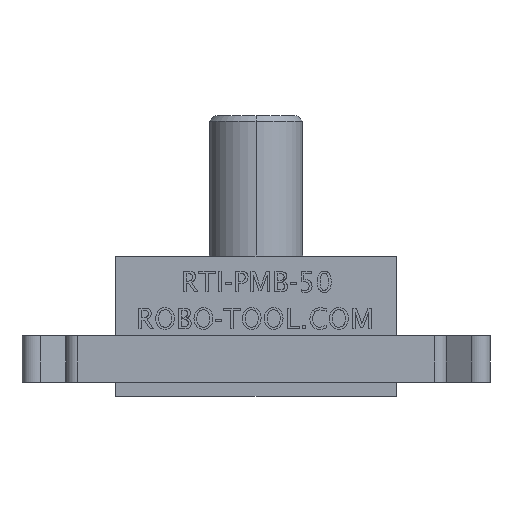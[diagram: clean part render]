
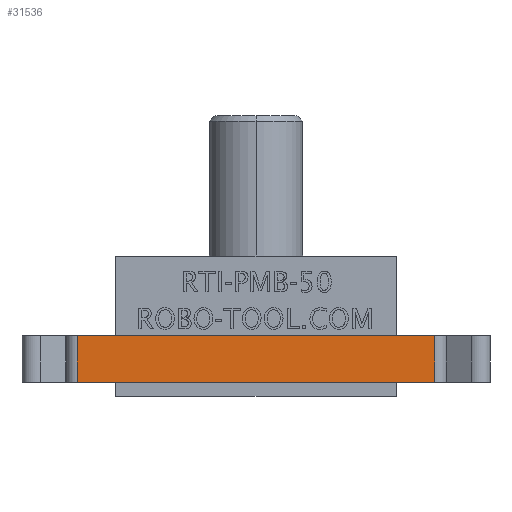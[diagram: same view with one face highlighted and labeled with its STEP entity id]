
A CAD part, front view. The second image highlights one B-rep face of the part: STEP entity #31536.
In plain terms, the highlighted planar face has unit normal (0, -1, 0) as drawn and (0, 0, -1) by its records, which use the part's own axes.
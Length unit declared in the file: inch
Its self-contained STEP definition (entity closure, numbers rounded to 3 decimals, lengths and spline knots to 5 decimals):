
#318 = DIRECTION ( 'NONE',  ( 1., 0., 0. ) ) ;
#341 = DIRECTION ( 'NONE',  ( 0., 0., 1. ) ) ;
#344 = CARTESIAN_POINT ( 'NONE',  ( -1.25, 0.25, -0.875 ) ) ;
#364 = PLANE ( 'NONE',  #36966 ) ;
#2041 = EDGE_CURVE ( 'NONE', #18240, #18239, #32452, .T. ) ;
#3358 = EDGE_LOOP ( 'NONE', ( #14927, #14928, #14929, #14930 ) ) ;
#11911 = CARTESIAN_POINT ( 'NONE',  ( -1.25, 0., -0.875 ) ) ;
#11912 = DIRECTION ( 'NONE',  ( -1., 0., 0. ) ) ;
#11913 = CARTESIAN_POINT ( 'NONE',  ( -0.95422, 0., -0.875 ) ) ;
#11914 = DIRECTION ( 'NONE',  ( 0., 1., 0. ) ) ;
#11915 = CARTESIAN_POINT ( 'NONE',  ( 0.95422, 0., -0.875 ) ) ;
#11916 = DIRECTION ( 'NONE',  ( 0., 1., 0. ) ) ;
#14927 = ORIENTED_EDGE ( 'NONE', *, *, #33657, .T. ) ;
#14928 = ORIENTED_EDGE ( 'NONE', *, *, #33658, .T. ) ;
#14929 = ORIENTED_EDGE ( 'NONE', *, *, #2041, .F. ) ;
#14930 = ORIENTED_EDGE ( 'NONE', *, *, #33659, .F. ) ;
#15433 = LINE ( 'NONE', #11911, #15434 ) ;
#15434 = VECTOR ( 'NONE', #11912, 39.37008 ) ;
#15435 = LINE ( 'NONE', #11913, #15436 ) ;
#15436 = VECTOR ( 'NONE', #11914, 39.37008 ) ;
#15437 = LINE ( 'NONE', #11915, #15438 ) ;
#15438 = VECTOR ( 'NONE', #11916, 39.37008 ) ;
#17141 = DIRECTION ( 'NONE',  ( -1., 0., 0. ) ) ;
#17142 = CARTESIAN_POINT ( 'NONE',  ( -1.25, 0.25, -0.875 ) ) ;
#18086 = VERTEX_POINT ( 'NONE', #42593 ) ;
#18087 = VERTEX_POINT ( 'NONE', #42592 ) ;
#18239 = VERTEX_POINT ( 'NONE', #42429 ) ;
#18240 = VERTEX_POINT ( 'NONE', #42428 ) ;
#25350 = FACE_OUTER_BOUND ( 'NONE', #3358, .T. ) ;
#31536 = ADVANCED_FACE ( 'NONE', ( #25350 ), #364, .F. ) ;
#32452 = LINE ( 'NONE', #17142, #32454 ) ;
#32454 = VECTOR ( 'NONE', #17141, 39.37008 ) ;
#33657 = EDGE_CURVE ( 'NONE', #18087, #18086, #15433, .T. ) ;
#33658 = EDGE_CURVE ( 'NONE', #18086, #18239, #15435, .T. ) ;
#33659 = EDGE_CURVE ( 'NONE', #18087, #18240, #15437, .T. ) ;
#36966 = AXIS2_PLACEMENT_3D ( 'NONE', #344, #341, #318 ) ;
#42428 = CARTESIAN_POINT ( 'NONE',  ( 0.95422, 0.25, -0.875 ) ) ;
#42429 = CARTESIAN_POINT ( 'NONE',  ( -0.95422, 0.25, -0.875 ) ) ;
#42592 = CARTESIAN_POINT ( 'NONE',  ( 0.95422, 0., -0.875 ) ) ;
#42593 = CARTESIAN_POINT ( 'NONE',  ( -0.95422, 0., -0.875 ) ) ;
